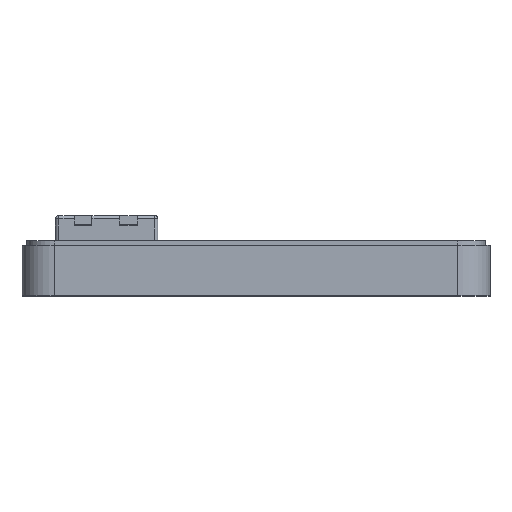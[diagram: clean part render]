
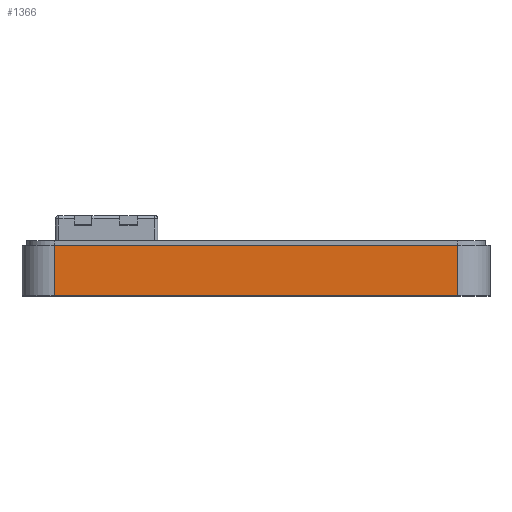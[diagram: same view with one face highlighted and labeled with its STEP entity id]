
A CAD part, top view. The second image highlights one B-rep face of the part: STEP entity #1366.
In plain terms, the highlighted planar face has unit normal (0, 0, 1).
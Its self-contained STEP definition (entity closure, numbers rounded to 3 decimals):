
#396 = LINE ( 'NONE', #5011, #4524 ) ;
#441 = PLANE ( 'NONE',  #2224 ) ;
#1003 = DIRECTION ( 'NONE',  ( 0., -1., 0. ) ) ;
#1036 = CARTESIAN_POINT ( 'NONE',  ( -62., 17., 44.9 ) ) ;
#1262 = FACE_OUTER_BOUND ( 'NONE', #10429, .T. ) ;
#1356 = VERTEX_POINT ( 'NONE', #6964 ) ;
#1358 = LINE ( 'NONE', #4147, #9708 ) ;
#1366 = ADVANCED_FACE ( 'NONE', ( #1262 ), #441, .F. ) ;
#1660 = CARTESIAN_POINT ( 'NONE',  ( -72., 0., 44.9 ) ) ;
#1739 = DIRECTION ( 'NONE',  ( 1., 0., 0. ) ) ;
#1762 = EDGE_CURVE ( 'NONE', #10018, #1356, #3303, .T. ) ;
#2055 = EDGE_CURVE ( 'NONE', #3458, #6756, #1358, .T. ) ;
#2224 = AXIS2_PLACEMENT_3D ( 'NONE', #6168, #5369, #10163 ) ;
#2238 = VECTOR ( 'NONE', #1003, 1000. ) ;
#2464 = EDGE_CURVE ( 'NONE', #1356, #6756, #396, .T. ) ;
#3088 = CARTESIAN_POINT ( 'NONE',  ( 62., 15.5, 44.9 ) ) ;
#3303 = LINE ( 'NONE', #1660, #9220 ) ;
#3458 = VERTEX_POINT ( 'NONE', #8612 ) ;
#4068 = ORIENTED_EDGE ( 'NONE', *, *, #2464, .T. ) ;
#4080 = DIRECTION ( 'NONE',  ( 1., 0., 0. ) ) ;
#4147 = CARTESIAN_POINT ( 'NONE',  ( -72., 15.5, 44.9 ) ) ;
#4151 = LINE ( 'NONE', #1036, #2238 ) ;
#4313 = ORIENTED_EDGE ( 'NONE', *, *, #8742, .T. ) ;
#4524 = VECTOR ( 'NONE', #5054, 1000. ) ;
#5011 = CARTESIAN_POINT ( 'NONE',  ( 62., 17., 44.9 ) ) ;
#5054 = DIRECTION ( 'NONE',  ( 0., 1., 0. ) ) ;
#5369 = DIRECTION ( 'NONE',  ( 0., 0., -1. ) ) ;
#6001 = CARTESIAN_POINT ( 'NONE',  ( -62., 0., 44.9 ) ) ;
#6168 = CARTESIAN_POINT ( 'NONE',  ( -72., 17., 44.9 ) ) ;
#6326 = ORIENTED_EDGE ( 'NONE', *, *, #2055, .F. ) ;
#6756 = VERTEX_POINT ( 'NONE', #3088 ) ;
#6964 = CARTESIAN_POINT ( 'NONE',  ( 62., 0., 44.9 ) ) ;
#8612 = CARTESIAN_POINT ( 'NONE',  ( -62., 15.5, 44.9 ) ) ;
#8742 = EDGE_CURVE ( 'NONE', #3458, #10018, #4151, .T. ) ;
#8971 = ORIENTED_EDGE ( 'NONE', *, *, #1762, .T. ) ;
#9220 = VECTOR ( 'NONE', #1739, 1000. ) ;
#9708 = VECTOR ( 'NONE', #4080, 1000. ) ;
#10018 = VERTEX_POINT ( 'NONE', #6001 ) ;
#10163 = DIRECTION ( 'NONE',  ( -1., 0., 0. ) ) ;
#10429 = EDGE_LOOP ( 'NONE', ( #6326, #4313, #8971, #4068 ) ) ;
